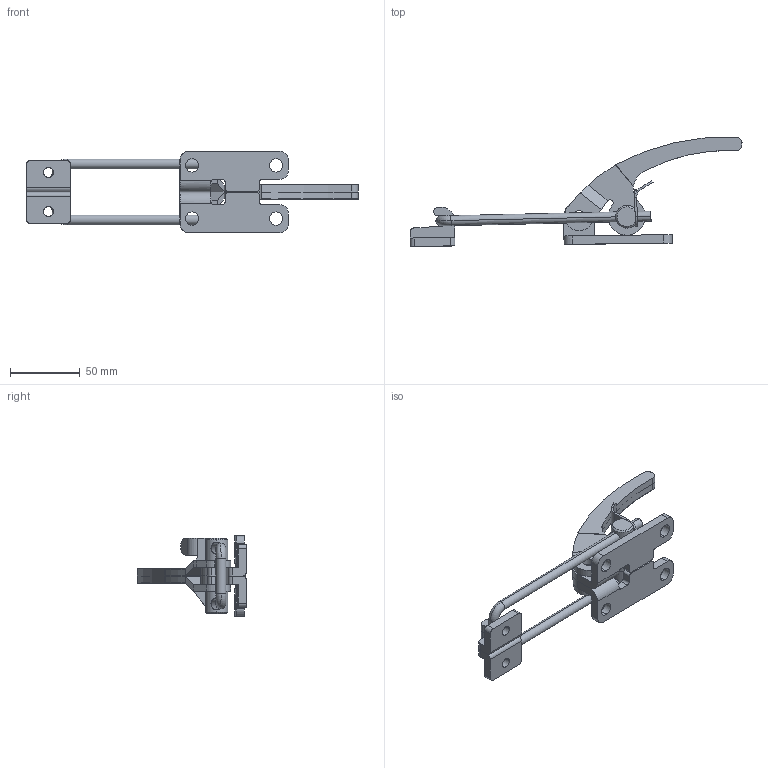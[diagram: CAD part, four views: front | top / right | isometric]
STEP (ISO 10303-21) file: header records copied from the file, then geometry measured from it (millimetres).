
FILE_DESCRIPTION (( 'STEP AP214' ), '1' );
FILE_NAME ('M42F-6.STEP', '2020-12-01T09:25:19', ( '' ), ( '' ), 'SwSTEP 2.0', 'SolidWorks 2015', '' );
FILE_SCHEMA (( 'AUTOMOTIVE_DESIGN' ));
Length unit declared in the file: millimetre
Products named in the file (10): M42F-6-06_karsilik 2; M42F-6-06_karsilik; M42F-6_Týrnak; M42F-6 kanca; M42F-6 mil; M42F-6 ayak; M42F-6 ayak 1; M42F-6 kol2; M42F-6 kol; M42F-6
Assembly tree (9 placements, depth 2):
  M42F-6
    M42F-6 kol
    M42F-6 kol2
    M42F-6 ayak 1
    M42F-6 ayak
    M42F-6 mil
    M42F-6 kanca
    M42F-6_Týrnak
    M42F-6-06_karsilik
    M42F-6-06_karsilik 2
Bounding box: 237.26 x 77.9 x 58 mm (x, y, z)
Volume: 91058.9 mm3; surface area: 47248.7 mm2
Topology: 9 solids, 9 shells, 229 faces, 607 edges, 395 vertices
Faces by surface type: cylinder 121, plane 100, torus 4, cone 3, bspline 1
Entity records: 7963 total; most frequent: CARTESIAN_POINT 1458, DIRECTION 1322, ORIENTED_EDGE 1214, EDGE_CURVE 607, AXIS2_PLACEMENT_3D 493, VERTEX_POINT 395, LINE 336, VECTOR 336
